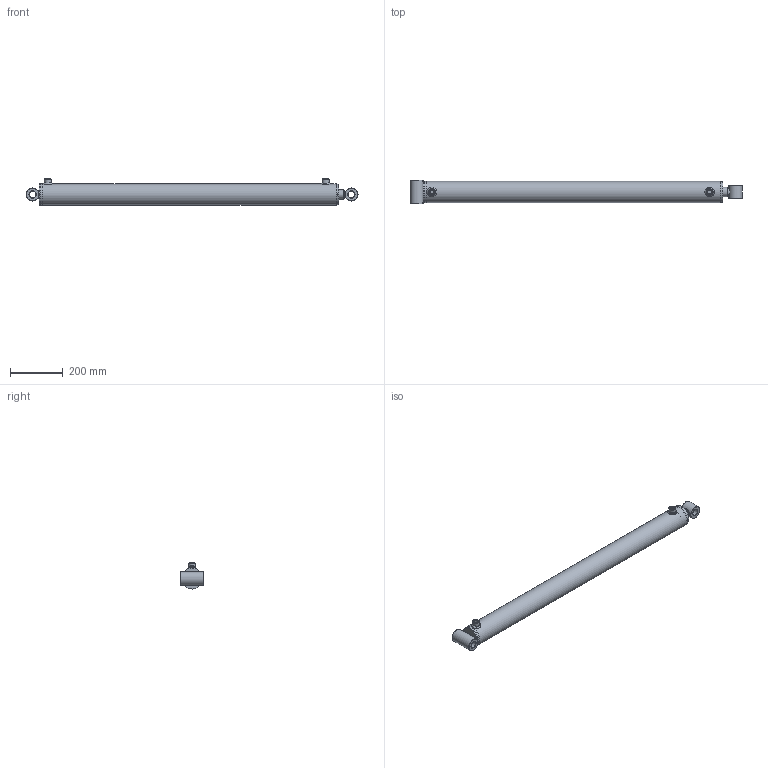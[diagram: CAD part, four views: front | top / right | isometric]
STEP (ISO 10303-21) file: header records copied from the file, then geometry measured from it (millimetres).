
FILE_DESCRIPTION( ( 'Unknown' ), '1' );
FILE_NAME( 'E:/LIBRERIA_3d/CILINDRI/HM2/HM24351000.stp', 'Unknown', ( 'Unknown' ), ( 'Unknown' ), 'PSStep 17.0.49', 'Unknown', ' ' );
FILE_SCHEMA( ( 'AUTOMOTIVE_DESIGN { 1 0 10303 214 1 1 1 1 }' ) );
Length unit declared in the file: millimetre
Products named in the file (26): CT00070020; CG08007035; STL4501000-oa6; Saldatura d'angolo 1-oa4; FTM4501000-oa5; CBSC220600; HM04351000; Saldatura con preparazione 1-oa2; Saldatura d'angolo 1-oa3; CF00070080; CBS0600000; APG0600000; CDA0002015; SBL3531000; Assem1; CB25050050; CB25050090; Saldatura d'angolo 1-oa0; Saldatura d'angolo 2-oa1
Assembly tree (18 placements, depth 4):
  Saldatura d'angolo 1-oa4
  Saldatura d'angolo 1-oa4
  Saldatura d'angolo 1-oa3
  Saldatura d'angolo 1-oa3
  Assem1
    CB25050050
    CB25050090
    HM04351000
      Saldatura con preparazione 1-oa2
      Saldatura con preparazione 1-oa2
      CF00070080
      CBS0600000
      APG0600000  x2
      CDA0002015
      SBL3531000
      CG08007035
        CG08007035
      CT00070020
        CT00070020
      STL4501000-oa6
        FTM4501000-oa5
        CBSC220600
Bounding box: 1260 x 90 x 99 mm (x, y, z)
Volume: 2946494.7 mm3; surface area: 797914 mm2
Topology: 22 solids, 22 shells, 300 faces, 630 edges, 351 vertices
Faces by surface type: bspline 100, plane 62, cylinder 61, cone 40, torus 37
Full cylindrical faces by diameter (mm): 4.25 x1, 5 x2, 6 x2, 7 x2, 14.95 x2, 16 x2, 16.6 x2, 19.4 x1, 20 x5, 22 x2, 24.5 x1, 25.25 x2, 26 x2, 30 x1, 35 x4, 37 x1, 38 x1, 43.6 x1, 45 x1, 50 x3, 64.18 x2, 65 x1, 68.34 x2, 69.9 x1, 70 x1, 70.3 x1, 70.5 x1, 70.6 x1, 71 x1, 72 x3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
Entity records: 16796 total; most frequent: CARTESIAN_POINT 9671, DIRECTION 814, ORIENTED_EDGE 790, EDGE_LOOP 474, AXIS2_PLACEMENT_3D 395, EDGE_CURVE 395, FACE_OUTER_BOUND 392, VERTEX_POINT 300
